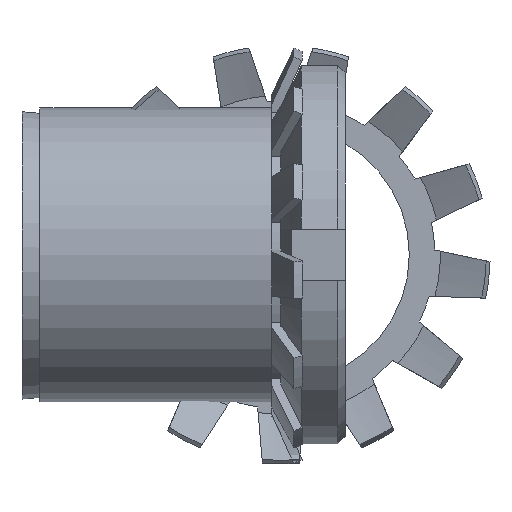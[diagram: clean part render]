
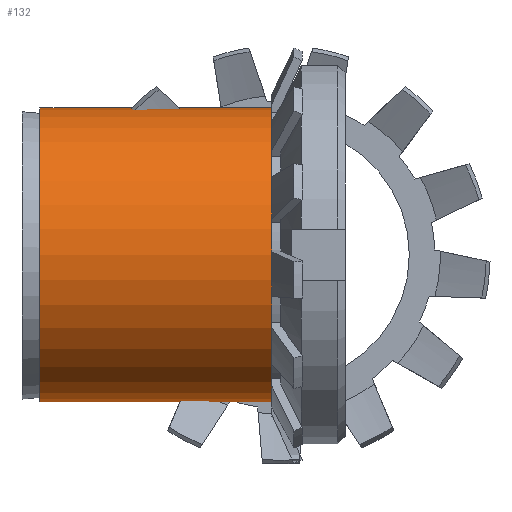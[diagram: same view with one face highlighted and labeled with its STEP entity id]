
A CAD part, left-side view. The second image highlights one B-rep face of the part: STEP entity #132.
In plain terms, the highlighted cylindrical face has radius 20 mm (diameter 40 mm), a full revolution.
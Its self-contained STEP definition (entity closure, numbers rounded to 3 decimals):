
#132 = ADVANCED_FACE( '', ( #260, #261 ), #262, .T. );
#260 = FACE_OUTER_BOUND( '', #390, .T. );
#261 = FACE_OUTER_BOUND( '', #391, .T. );
#262 = CYLINDRICAL_SURFACE( '', #392, 20. );
#390 = EDGE_LOOP( '', ( #761 ) );
#391 = EDGE_LOOP( '', ( #762 ) );
#392 = AXIS2_PLACEMENT_3D( '', #763, #764, #765 );
#761 = ORIENTED_EDGE( '', *, *, #1085, .F. );
#762 = ORIENTED_EDGE( '', *, *, #1057, .T. );
#763 = CARTESIAN_POINT( '', ( 0., -60., 0. ) );
#764 = DIRECTION( '', ( 0., 1., 0. ) );
#765 = DIRECTION( '', ( 0., 0., -1. ) );
#1057 = EDGE_CURVE( '', #1389, #1389, #1390, .T. );
#1085 = EDGE_CURVE( '', #1433, #1433, #1434, .T. );
#1389 = VERTEX_POINT( '', #2401 );
#1390 = CIRCLE( '', #2402, 20. );
#1433 = VERTEX_POINT( '', #2488 );
#1434 = CIRCLE( '', #2489, 20. );
#2401 = CARTESIAN_POINT( '', ( 0., 32.806, -20. ) );
#2402 = AXIS2_PLACEMENT_3D( '', #2882, #2883, #2884 );
#2488 = CARTESIAN_POINT( '', ( 0., 0., -20. ) );
#2489 = AXIS2_PLACEMENT_3D( '', #2913, #2914, #2915 );
#2882 = CARTESIAN_POINT( '', ( 0., 32.806, 0. ) );
#2883 = DIRECTION( '', ( 0., -1., 0. ) );
#2884 = DIRECTION( '', ( 0., 0., -1. ) );
#2913 = CARTESIAN_POINT( '', ( 0., 0., 0. ) );
#2914 = DIRECTION( '', ( 0., -1., 0. ) );
#2915 = DIRECTION( '', ( 0., 0., -1. ) );
